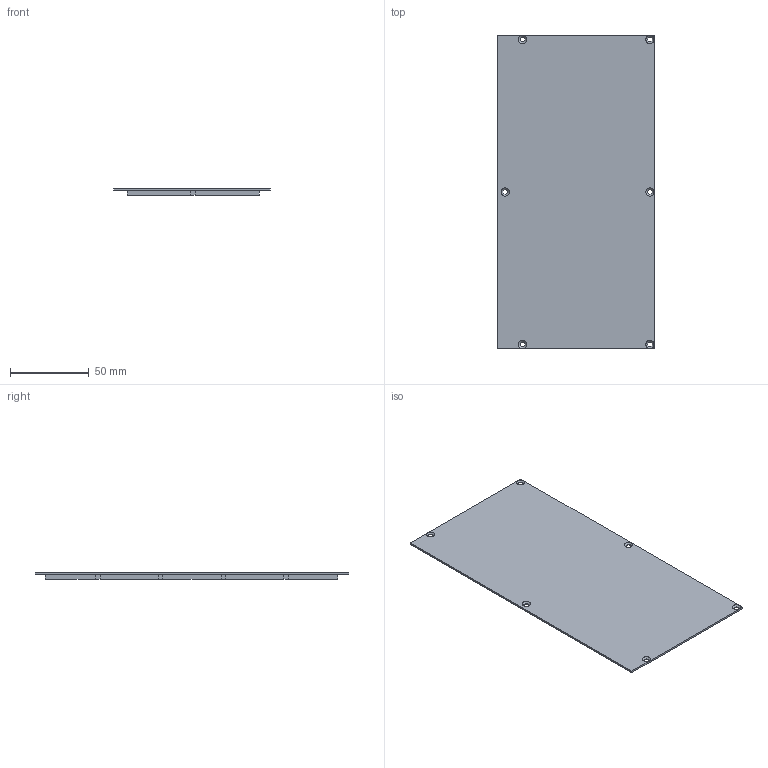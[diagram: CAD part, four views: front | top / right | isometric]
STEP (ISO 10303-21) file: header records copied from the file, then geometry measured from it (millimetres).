
FILE_DESCRIPTION(('FreeCAD Model'),'2;1');
FILE_NAME('Open CASCADE Shape Model','2025-11-03T21:19:06',(''),(''), 'Open CASCADE STEP processor 7.6','FreeCAD','Unknown');
FILE_SCHEMA(('AUTOMOTIVE_DESIGN { 1 0 10303 214 1 1 1 1 }'));
Length unit declared in the file: millimetre
Products named in the file (1): surface - laminate
Bounding box: 99.6 x 199.6 x 4.2 mm (x, y, z)
Volume: 28351.3 mm3; surface area: 43502.9 mm2
Topology: 1 solids, 1 shells, 57 faces, 156 edges, 102 vertices
Faces by surface type: plane 43, cylinder 8, cone 6
Full cylindrical faces by diameter (mm): 3.2 x6
Entity records: 3872 total; most frequent: CARTESIAN_POINT 652, DIRECTION 602, LINE 430, VECTOR 430, ORIENTED_EDGE 312, PCURVE 312, DEFINITIONAL_REPRESENTATION 312, EDGE_CURVE 156
